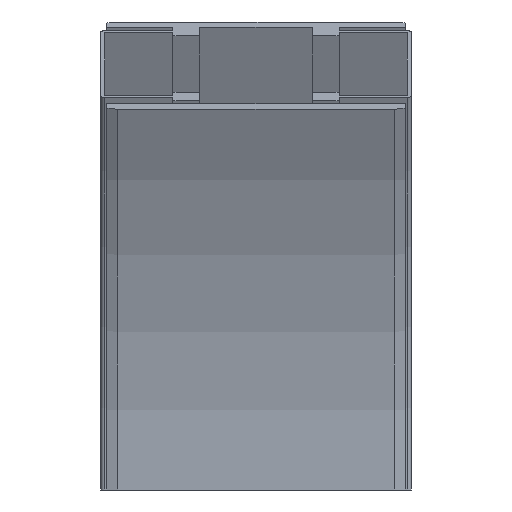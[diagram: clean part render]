
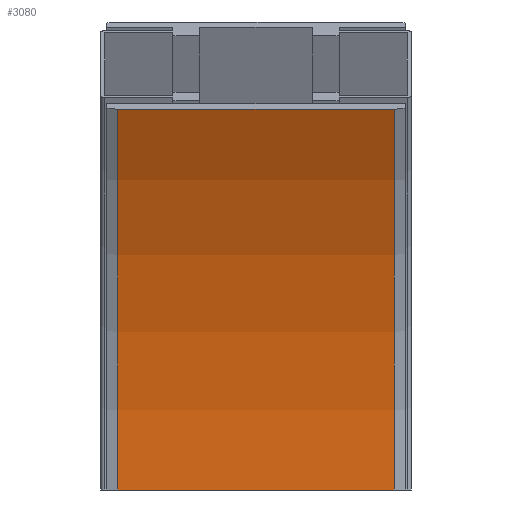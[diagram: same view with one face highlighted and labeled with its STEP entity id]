
A CAD part, front view. The second image highlights one B-rep face of the part: STEP entity #3080.
In plain terms, the highlighted cylindrical face has radius 357.5 mm (diameter 715 mm), a partial arc.
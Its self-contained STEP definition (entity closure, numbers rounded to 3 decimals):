
#3022=CARTESIAN_POINT('',(104.,-121.896,178.75));
#3023=VERTEX_POINT('',#3022);
#3030=CARTESIAN_POINT('',(104.,-74.,0.0));
#3031=VERTEX_POINT('',#3030);
#3032=CARTESIAN_POINT('',(104.,-431.5,0.));
#3033=DIRECTION('',(1.0,0.0,0.0));
#3034=DIRECTION('',(0.0,1.0,0.0));
#3035=AXIS2_PLACEMENT_3D('',#3032,#3033,#3034);
#3036=CIRCLE('',#3035,357.5);
#3037=EDGE_CURVE('',#3031,#3023,#3036,.T.);
#3049=CARTESIAN_POINT('',(39.,-431.5,0.));
#3050=DIRECTION('',(1.0,0.0,0.0));
#3051=DIRECTION('',(0.0,1.0,0.0));
#3052=AXIS2_PLACEMENT_3D('',#3049,#3050,#3051);
#3053=CYLINDRICAL_SURFACE('',#3052,357.5);
#3054=CARTESIAN_POINT('',(-26.,-121.896,178.75));
#3055=VERTEX_POINT('',#3054);
#3056=CARTESIAN_POINT('',(104.0,-121.896,178.75));
#3057=DIRECTION('',(-1.0,0.0,0.0));
#3058=VECTOR('',#3057,130.);
#3059=LINE('',#3056,#3058);
#3060=EDGE_CURVE('',#3023,#3055,#3059,.T.);
#3061=ORIENTED_EDGE('',*,*,#3060,.T.);
#3062=CARTESIAN_POINT('',(-26.,-74.,0.0));
#3063=VERTEX_POINT('',#3062);
#3064=CARTESIAN_POINT('',(-26.,-431.5,0.));
#3065=DIRECTION('',(1.0,0.0,0.0));
#3066=DIRECTION('',(0.0,1.0,0.0));
#3067=AXIS2_PLACEMENT_3D('',#3064,#3065,#3066);
#3068=CIRCLE('',#3067,357.5);
#3069=EDGE_CURVE('',#3063,#3055,#3068,.T.);
#3070=ORIENTED_EDGE('',*,*,#3069,.F.);
#3071=CARTESIAN_POINT('',(-26.,-74.,0.0));
#3072=DIRECTION('',(1.0,0.0,0.0));
#3073=VECTOR('',#3072,130.);
#3074=LINE('',#3071,#3073);
#3075=EDGE_CURVE('',#3063,#3031,#3074,.T.);
#3076=ORIENTED_EDGE('',*,*,#3075,.T.);
#3077=ORIENTED_EDGE('',*,*,#3037,.T.);
#3078=EDGE_LOOP('',(#3061,#3070,#3076,#3077));
#3079=FACE_OUTER_BOUND('',#3078,.T.);
#3080=ADVANCED_FACE('',(#3079),#3053,.F.);
